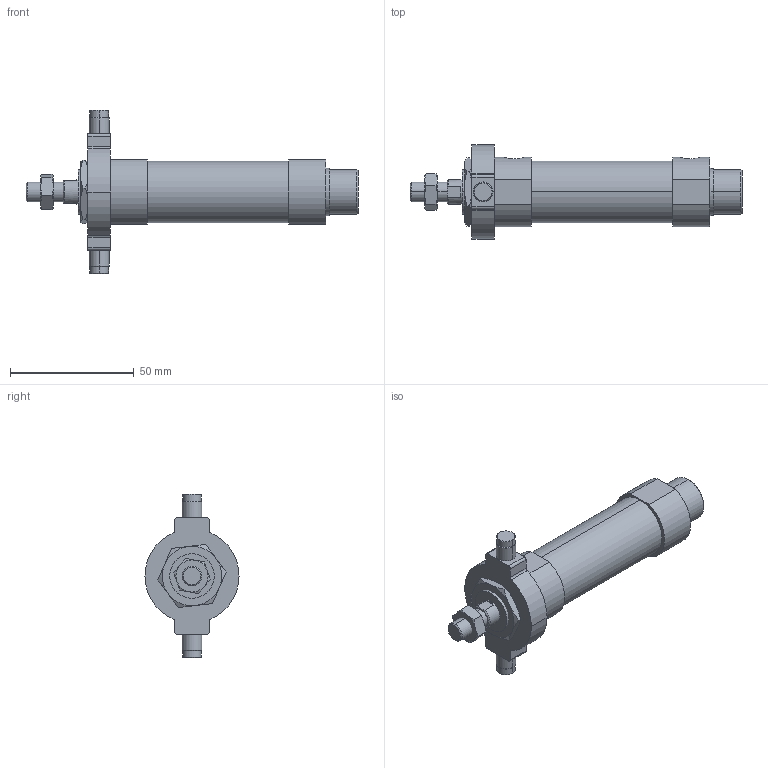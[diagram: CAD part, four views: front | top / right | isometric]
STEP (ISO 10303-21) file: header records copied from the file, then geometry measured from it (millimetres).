
FILE_DESCRIPTION (( 'STEP AP203' ), '1' );
FILE_NAME ('J#2-20-25-T.STEP', '2016-03-08T06:56:11', ( '' ), ( '' ), 'SwSTEP 2.0', 'SolidWorks 2014', '' );
FILE_SCHEMA (( 'CONFIG_CONTROL_DESIGN' ));
Length unit declared in the file: millimetre
Products named in the file (5): J#2-20-25-T; J#2-20-T; J#2-20-25
Assembly tree (4 placements, depth 2):
  J#2-20-25-T
    J#2-20-25
    (unnamed)
    (unnamed)
    J#2-20-T
Bounding box: 134 x 38 x 66 mm (x, y, z)
Volume: 63603.2 mm3; surface area: 16960.3 mm2
Topology: 4 solids, 4 shells, 131 faces, 291 edges, 180 vertices
Faces by surface type: cylinder 47, plane 46, torus 24, cone 14
Entity records: 4496 total; most frequent: CARTESIAN_POINT 1065, DIRECTION 639, ORIENTED_EDGE 582, EDGE_CURVE 291, AXIS2_PLACEMENT_3D 266, VERTEX_POINT 180, EDGE_LOOP 149, FACE_OUTER_BOUND 131
